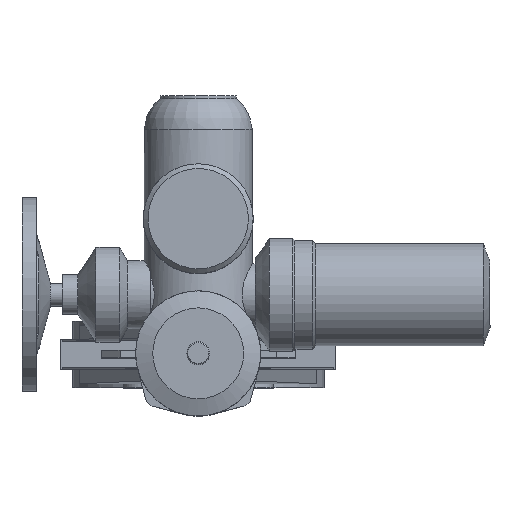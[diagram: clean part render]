
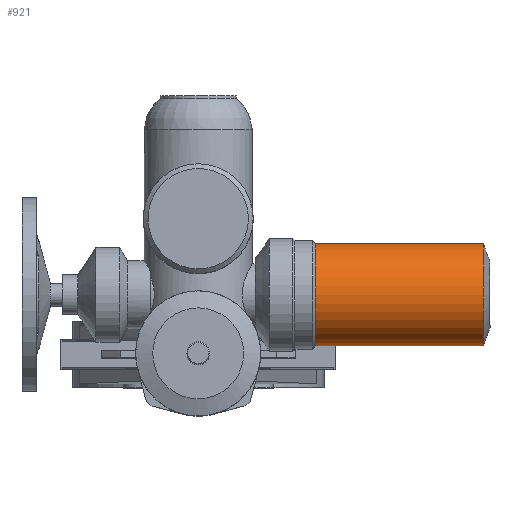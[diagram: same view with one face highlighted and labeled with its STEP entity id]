
A CAD part, top view. The second image highlights one B-rep face of the part: STEP entity #921.
In plain terms, the highlighted cylindrical face has radius 54 mm (diameter 108 mm), a full revolution.
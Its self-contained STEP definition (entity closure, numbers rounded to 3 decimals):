
#921=ADVANCED_FACE('',(#2933,#2935),#2937,.T.);
#2933=FACE_OUTER_BOUND('',#2934,.T.);
#2934=EDGE_LOOP('',(#4399));
#2935=FACE_OUTER_BOUND('',#2936,.T.);
#2936=EDGE_LOOP('',(#4400));
#2937=CYLINDRICAL_SURFACE('',#2938,54.);
#2938=AXIS2_PLACEMENT_3D('',#2939,#2940,#2941);
#2939=CARTESIAN_POINT('',(301.085,62.,686.));
#2940=DIRECTION('',(-1.,0.,0.));
#2941=DIRECTION('',(0.,0.,1.));
#4399=ORIENTED_EDGE('',*,*,#5372,.T.);
#4400=ORIENTED_EDGE('',*,*,#5283,.F.);
#5283=EDGE_CURVE('',#5994,#5994,#5995,.T.);
#5372=EDGE_CURVE('',#6148,#6148,#6149,.T.);
#5994=VERTEX_POINT('',#8485);
#5995=CIRCLE('',#8486,54.);
#6148=VERTEX_POINT('',#8835);
#6149=CIRCLE('',#8836,54.);
#8485=CARTESIAN_POINT('',(123.505,62.,740.));
#8486=AXIS2_PLACEMENT_3D('',#8487,#8488,#8489);
#8487=CARTESIAN_POINT('',(123.505,62.,686.));
#8488=DIRECTION('',(-1.,0.,0.));
#8489=DIRECTION('',(0.,0.,1.));
#8835=CARTESIAN_POINT('',(301.085,62.,740.));
#8836=AXIS2_PLACEMENT_3D('',#8837,#8838,#8839);
#8837=CARTESIAN_POINT('',(301.085,62.,686.));
#8838=DIRECTION('',(-1.,0.,0.));
#8839=DIRECTION('',(0.,0.,1.));
